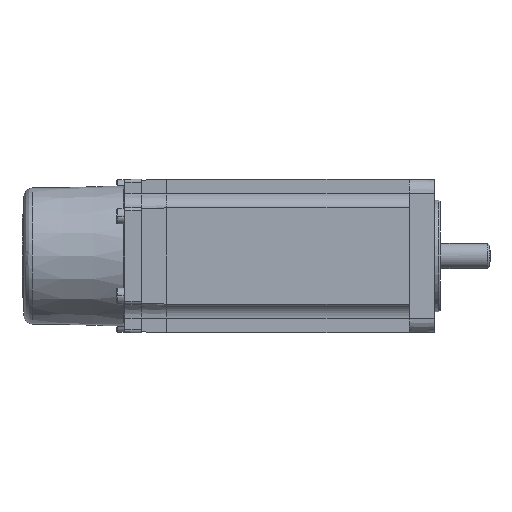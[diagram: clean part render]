
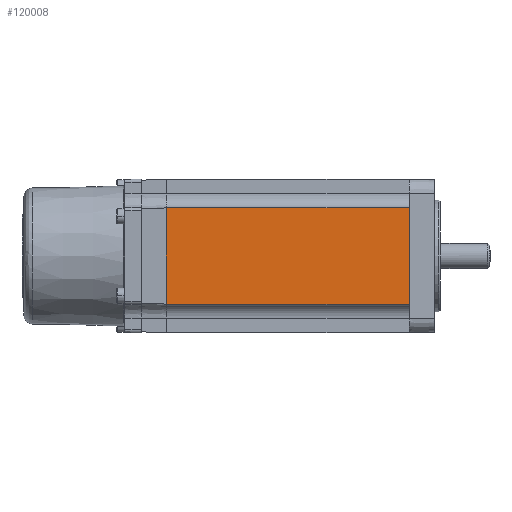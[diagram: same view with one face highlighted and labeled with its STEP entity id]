
A CAD part, front view. The second image highlights one B-rep face of the part: STEP entity #120008.
In plain terms, the highlighted planar face has unit normal (0, -1, 0) as drawn and (0, 1, 0) by its records, which use the part's own axes.
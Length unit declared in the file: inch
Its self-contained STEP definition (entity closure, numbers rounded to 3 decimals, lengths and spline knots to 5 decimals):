
#2358 = VECTOR ( 'NONE', #139089, 39.37008 ) ;
#5153 = CARTESIAN_POINT ( 'NONE',  ( -0.68007, 1.08268, -1.71654 ) ) ;
#6698 = CARTESIAN_POINT ( 'NONE',  ( 1.08268, 1.08268, 1.71654 ) ) ;
#11586 = VERTEX_POINT ( 'NONE', #80510 ) ;
#13250 = VECTOR ( 'NONE', #138537, 39.37008 ) ;
#13353 = ORIENTED_EDGE ( 'NONE', *, *, #24307, .F. ) ;
#14027 = PLANE ( 'NONE',  #122981 ) ;
#16270 = DIRECTION ( 'NONE',  ( 0., 0., -1. ) ) ;
#24243 = CARTESIAN_POINT ( 'NONE',  ( 0.68007, 1.08268, 1.71654 ) ) ;
#24307 = EDGE_CURVE ( 'NONE', #11586, #57587, #118361, .T. ) ;
#25089 = CARTESIAN_POINT ( 'NONE',  ( -1.08268, 1.08268, -1.71654 ) ) ;
#26265 = VECTOR ( 'NONE', #16270, 39.37008 ) ;
#30607 = VECTOR ( 'NONE', #55773, 39.37008 ) ;
#42848 = CARTESIAN_POINT ( 'NONE',  ( -0.68007, 1.08268, -1.71654 ) ) ;
#44685 = CARTESIAN_POINT ( 'NONE',  ( 0.68007, 1.08268, -1.71654 ) ) ;
#47196 = DIRECTION ( 'NONE',  ( 0., 0., -1. ) ) ;
#52277 = EDGE_CURVE ( 'NONE', #112556, #11586, #60909, .T. ) ;
#53362 = ORIENTED_EDGE ( 'NONE', *, *, #70370, .F. ) ;
#54837 = EDGE_LOOP ( 'NONE', ( #53362, #13353, #69042, #109283 ) ) ;
#55773 = DIRECTION ( 'NONE',  ( 0., 0., 1. ) ) ;
#57587 = VERTEX_POINT ( 'NONE', #24243 ) ;
#60909 = LINE ( 'NONE', #73213, #2358 ) ;
#69042 = ORIENTED_EDGE ( 'NONE', *, *, #52277, .F. ) ;
#70370 = EDGE_CURVE ( 'NONE', #57587, #106617, #101010, .T. ) ;
#73213 = CARTESIAN_POINT ( 'NONE',  ( -1.08268, 1.08268, -1.71654 ) ) ;
#80510 = CARTESIAN_POINT ( 'NONE',  ( 0.68007, 1.08268, -1.71654 ) ) ;
#87289 = CARTESIAN_POINT ( 'NONE',  ( -0.68007, 1.08268, 1.71654 ) ) ;
#95889 = EDGE_CURVE ( 'NONE', #106617, #112556, #110603, .T. ) ;
#101010 = LINE ( 'NONE', #6698, #13250 ) ;
#106617 = VERTEX_POINT ( 'NONE', #87289 ) ;
#109283 = ORIENTED_EDGE ( 'NONE', *, *, #95889, .F. ) ;
#110603 = LINE ( 'NONE', #5153, #26265 ) ;
#112556 = VERTEX_POINT ( 'NONE', #42848 ) ;
#113112 = DIRECTION ( 'NONE',  ( 0., -1., 0. ) ) ;
#118361 = LINE ( 'NONE', #44685, #30607 ) ;
#120008 = ADVANCED_FACE ( 'NONE', ( #140242 ), #14027, .F. ) ;
#122981 = AXIS2_PLACEMENT_3D ( 'NONE', #25089, #113112, #47196 ) ;
#138537 = DIRECTION ( 'NONE',  ( -1., 0., 0. ) ) ;
#139089 = DIRECTION ( 'NONE',  ( 1., 0., 0. ) ) ;
#140242 = FACE_OUTER_BOUND ( 'NONE', #54837, .T. ) ;
